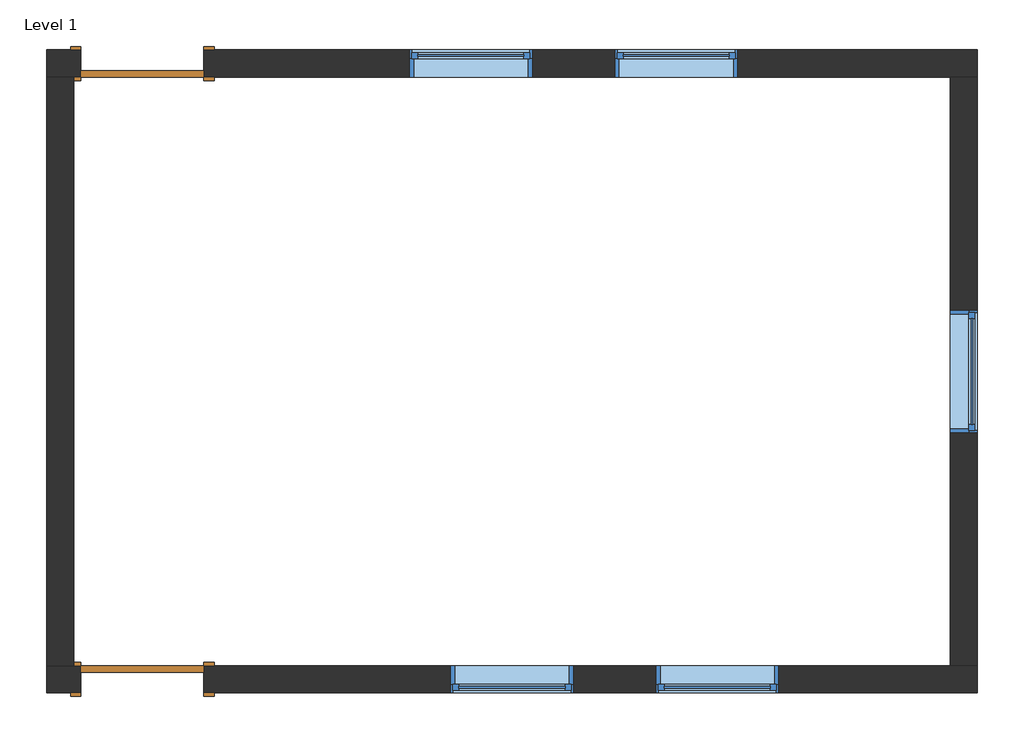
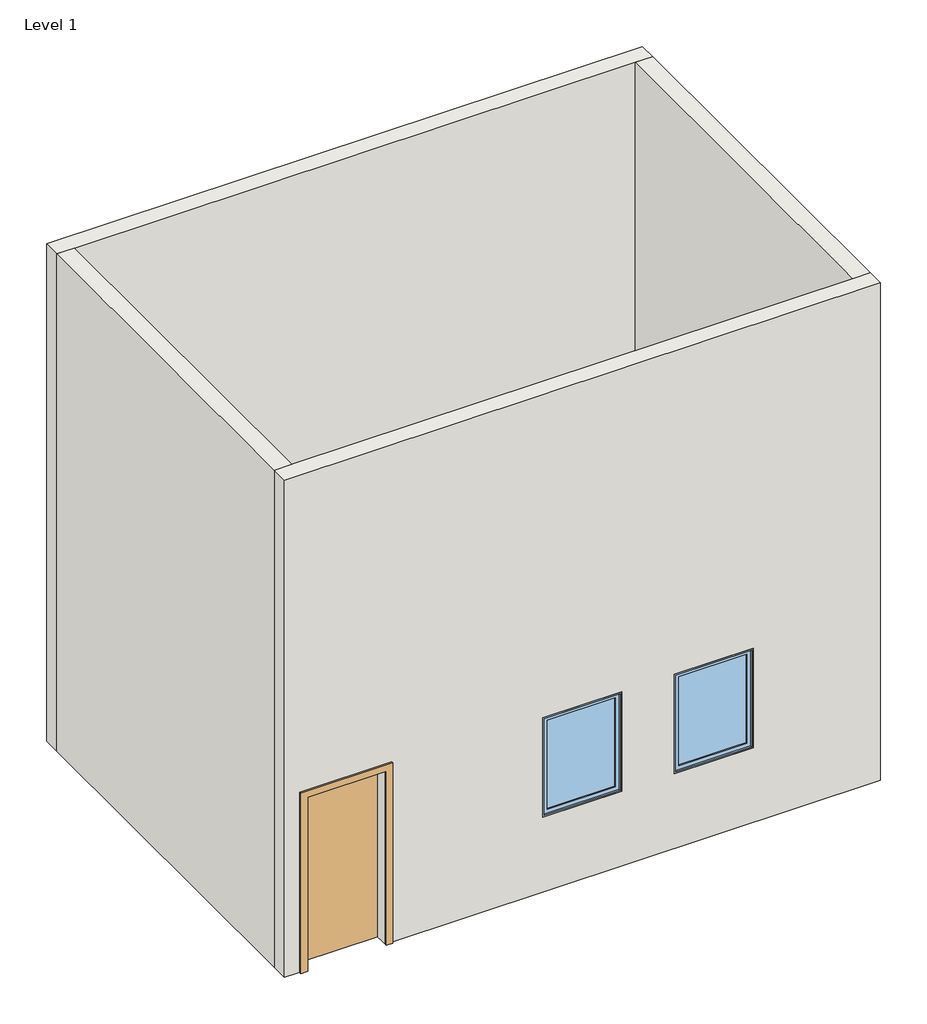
# One storey: 5 windows, 4 walls, 2 doors.
"""IFC4 building model written with IfcOpenShell, lengths in millimetres."""

import ifcopenshell
import ifcopenshell.guid

model = None  # the IFC model being written
_history = None  # IfcOwnerHistory: only IFC2X3 demands one
_inside = {}  # id of a spatial element -> (the spatial element, [elements in it])
_under = {}  # id of a project, library or spatial element -> (it, [spatial elements below it])
_declared = {}  # id of a project -> (the project, [libraries it declares])
_typed = {}  # id of a type object -> (the type object, [elements of that type])
_made_of = {}  # id of a material, layer set ... -> (it, [elements and type objects made of it])


def new_model(schema):
    """Start an empty IFC model of exactly this schema.

    Asked for "IFC4X3", IfcOpenShell would pick the latest addendum, in which some entities
    have other attributes; the version numbers below select the first issue.
    IFC2X3 requires an IfcOwnerHistory on every rooted entity: one is made here for all.
    """
    global model, _history
    if schema == "IFC4X3":
        model = ifcopenshell.file(schema_version=(4, 3, 0, 0))
    else:
        model = ifcopenshell.file(schema=schema)
    _inside.clear()
    _under.clear()
    _declared.clear()
    _typed.clear()
    _made_of.clear()
    _history = None
    if model.schema == "IFC2X3":
        org = make("IfcOrganization", Name="unknown")
        user = make(
            "IfcPersonAndOrganization",
            ThePerson=make("IfcPerson", FamilyName="unknown"),
            TheOrganization=org,
        )
        app = make(
            "IfcApplication",
            ApplicationDeveloper=org,
            Version="unknown",
            ApplicationFullName="unknown",
            ApplicationIdentifier="unknown",
        )
        _history = make(
            "IfcOwnerHistory",
            OwningUser=user,
            OwningApplication=app,
            ChangeAction="ADDED",
            CreationDate=0,
        )
    return model


def make(cls, **values):
    """One entity of the class cls with the attributes given. An attribute that is None is left unset."""
    return model.create_entity(
        cls, **{name: value for name, value in values.items() if value is not None}
    )


def rooted(cls, **values):
    """An entity with a GlobalId (a new one), such as an element, a storey or a relation."""
    return make(cls, GlobalId=ifcopenshell.guid.new(), OwnerHistory=_history, **values)


def si_unit(unit_type, name, prefix=None):
    """IfcSIUnit, for example si_unit("LENGTHUNIT", "METRE", prefix="MILLI")."""
    return make("IfcSIUnit", UnitType=unit_type, Prefix=prefix, Name=name)


def assignment(units):
    """IfcUnitAssignment: the units of a project."""
    return None if units is None else make("IfcUnitAssignment", Units=units)


def point(xyz):
    """IfcCartesianPoint."""
    return None if xyz is None else make("IfcCartesianPoint", Coordinates=xyz)


def direction(xyz):
    """IfcDirection."""
    return None if xyz is None else make("IfcDirection", DirectionRatios=xyz)


def frame(location, z_axis=None, x_axis=None):
    """IfcAxis2Placement3D, a coordinate frame: its origin and axes. An axis left out is left unset."""
    return make(
        "IfcAxis2Placement3D",
        Location=point(location),
        Axis=direction(z_axis),
        RefDirection=direction(x_axis),
    )


def origin():
    """The frame at (0, 0, 0) with its axes left unset."""
    return frame((0.0, 0.0, 0.0))


def origin_with_axes():
    """The frame at (0, 0, 0) with the z axis (0, 0, 1) and the x axis (1, 0, 0) written out."""
    return frame((0.0, 0.0, 0.0), z_axis=(0.0, 0.0, 1.0), x_axis=(1.0, 0.0, 0.0))


def place(relative_to, where):
    """IfcLocalPlacement: puts the frame where relative to a parent placement (None: the world)."""
    return make(
        "IfcLocalPlacement", PlacementRelTo=relative_to, RelativePlacement=where
    )


def context(
    kind, dimensions, precision=None, world=None, true_north=None, identifier=None
):
    """IfcGeometricRepresentationContext, for example the 3D "Model" context."""
    return make(
        "IfcGeometricRepresentationContext",
        ContextIdentifier=identifier,
        ContextType=kind,
        CoordinateSpaceDimension=dimensions,
        Precision=precision,
        WorldCoordinateSystem=world,
        TrueNorth=true_north,
    )


def project(units=None, contexts=None):
    """IfcProject with its units and contexts."""
    return rooted(
        "IfcProject",
        Name="project",
        RepresentationContexts=contexts,
        UnitsInContext=assignment(units),
    )


def spatial(cls, under=None, at=None, **own):
    """A site, building, storey or space (cls), placed at a placement, below another one or the project."""
    s = rooted(cls, ObjectPlacement=at, **own)
    if under is not None:
        _under.setdefault(under.id(), (under, []))[1].append(s)
    return s


def polyline(points):
    """IfcPolyline through the points."""
    return make("IfcPolyline", Points=[point(p) for p in points])


def outline(outer, holes=None, kind="AREA"):
    """IfcArbitraryClosedProfileDef: a profile drawn as a closed curve; with holes, ...WithVoids."""
    if holes is None:
        return make("IfcArbitraryClosedProfileDef", ProfileType=kind, OuterCurve=outer)
    return make(
        "IfcArbitraryProfileDefWithVoids",
        ProfileType=kind,
        OuterCurve=outer,
        InnerCurves=holes,
    )


def extrude(swept, where, along, depth):
    """IfcExtrudedAreaSolid: the profile swept, set in the frame where, extruded along a direction by depth."""
    return make(
        "IfcExtrudedAreaSolid",
        SweptArea=swept,
        Position=where,
        ExtrudedDirection=direction(along),
        Depth=depth,
    )


def faces_of(points, faces, orient=None, outer=None):
    """IfcFace entities. A face is a list of loops; a loop is a list of indices into points, from 0.

    orient and outer hold one flag for each loop. By default every Orientation is true, the
    first loop of a face is its IfcFaceOuterBound and the others are IfcFaceBound.
    """
    made = []
    for i, loops in enumerate(faces):
        bounds = []
        for j, loop in enumerate(loops):
            is_outer = j == 0 if outer is None else outer[i][j]
            bounds.append(
                make(
                    "IfcFaceOuterBound" if is_outer else "IfcFaceBound",
                    Bound=make("IfcPolyLoop", Polygon=[points[k] for k in loop]),
                    Orientation=True if orient is None else orient[i][j],
                )
            )
        made.append(make("IfcFace", Bounds=bounds))
    return made


def faceted_brep(points, faces, orient=None, outer=None, voids=None):
    """IfcFacetedBrep: a solid bounded by flat faces; with voids (closed shells), ...WithVoids."""
    shared = [point(p) for p in points]
    hull = make("IfcClosedShell", CfsFaces=faces_of(shared, faces, orient, outer))
    if voids is None:
        return make("IfcFacetedBrep", Outer=hull)
    return make(
        "IfcFacetedBrepWithVoids",
        Outer=hull,
        Voids=[
            make(cls, CfsFaces=faces_of(shared, fs, o, b)) for cls, fs, o, b in voids
        ],
    )


def shape(context_of_items, identifier, shape_type, items):
    """IfcShapeRepresentation: the items that make up one representation, for example the "Body"."""
    return make(
        "IfcShapeRepresentation",
        ContextOfItems=context_of_items,
        RepresentationIdentifier=identifier,
        RepresentationType=shape_type,
        Items=items,
    )


def source(mapping_origin, context_of_items, identifier, shape_type, items):
    """IfcRepresentationMap: a shape defined once, which mapped items show again and again."""
    return make(
        "IfcRepresentationMap",
        MappingOrigin=mapping_origin,
        MappedRepresentation=shape(context_of_items, identifier, shape_type, items),
    )


def transform(
    local_origin,
    x_axis=None,
    y_axis=None,
    z_axis=None,
    scale=None,
    scale2=None,
    scale3=None,
    uniform=True,
):
    """IfcCartesianTransformationOperator3D, or its non-uniform kind. x_axis, y_axis, z_axis: its Axis1, 2, 3."""
    if uniform:
        return make(
            "IfcCartesianTransformationOperator3D",
            Axis1=direction(x_axis),
            Axis2=direction(y_axis),
            LocalOrigin=point(local_origin),
            Scale=scale,
            Axis3=direction(z_axis),
        )
    return make(
        "IfcCartesianTransformationOperator3DnonUniform",
        Axis1=direction(x_axis),
        Axis2=direction(y_axis),
        LocalOrigin=point(local_origin),
        Scale=scale,
        Axis3=direction(z_axis),
        Scale2=scale2,
        Scale3=scale3,
    )


def mapped(mapping_source, mapping_target):
    """IfcMappedItem: shows the shape of a source again, moved by a transform."""
    return make(
        "IfcMappedItem", MappingSource=mapping_source, MappingTarget=mapping_target
    )


def made_of(thing, what):
    """Note that an element or type object is made of a material, layer set ...; save() writes the relation."""
    if what is not None:
        _made_of.setdefault(what.id(), (what, []))[1].append(thing)
    return thing


def element(
    cls,
    number,
    at=None,
    inside=None,
    cuts=None,
    type_object=None,
    material=None,
    context=None,
    identifier="Body",
    shape_type=None,
    held_by="IfcProductDefinitionShape",
    body=None,
    shapes=None,
    **own,
):
    """One element of the class cls, such as IfcWall. Its Tag is "e" and its number.

    at: its placement. inside: the storey or other place that contains it. cuts: it is an
    opening in that element (IfcRelVoidsElement). A single representation is given by context,
    identifier, shape_type and body (its items); several are given by shapes. held_by: the class
    of the entity that holds the representations. save() writes the other relations.
    """
    e = rooted(cls, Tag="e%d" % number, ObjectPlacement=at, **own)
    if body is not None:
        shapes = [shape(context, identifier, shape_type, body)]
    if shapes is not None:
        e.Representation = make(held_by, Representations=shapes)
    if inside is not None:
        _inside.setdefault(inside.id(), (inside, []))[1].append(e)
    if cuts is not None:
        rooted(
            "IfcRelVoidsElement", RelatingBuildingElement=cuts, RelatedOpeningElement=e
        )
    if type_object is not None:
        _typed.setdefault(type_object.id(), (type_object, []))[1].append(e)
    return made_of(e, material)


def aggregate(whole, parts):
    """IfcRelAggregates: a whole, such as a stair, and the parts it consists of."""
    return rooted("IfcRelAggregates", RelatingObject=whole, RelatedObjects=parts)


def save(model, path):
    """Write the relations noted so far, then the file.

    IfcRelAggregates (storeys below a building ...), IfcRelContainedInSpatialStructure (elements
    in a storey), IfcRelDefinesByType, IfcRelAssociatesMaterial and IfcRelDeclares: one each for
    every whole, place, type object, material and project.
    """
    for whole, parts in _under.values():
        aggregate(whole, parts)
    for where, things in _inside.values():
        rooted(
            "IfcRelContainedInSpatialStructure",
            RelatedElements=things,
            RelatingStructure=where,
        )
    for kind, things in _typed.values():
        rooted("IfcRelDefinesByType", RelatedObjects=things, RelatingType=kind)
    for what, things in _made_of.values():
        rooted("IfcRelAssociatesMaterial", RelatedObjects=things, RelatingMaterial=what)
    for by, libraries in _declared.values():
        rooted("IfcRelDeclares", RelatingContext=by, RelatedDefinitions=libraries)
    model.write(path)


def door_54dd4da4(model_context):
    return source(origin(), model_context, "Body", "SweptSolid", [
        extrude(outline(polyline([(2209.8, -533.4), (0.0, -533.4), (0.0, -457.2), (2133.6, -457.2), (2133.6, 457.2), (0.0, 457.2), (0.0, 533.4), (2209.8, 533.4), (2209.8, -533.4)])), frame((0.0, 101.6, 0.0), z_axis=(0.0, 1.0, 0.0), x_axis=(0.0, 0.0, 1.0)), (0.0, 0.0, 1.0), 25.4),
        extrude(outline(polyline([(2209.8, 533.4), (2209.8, -533.4), (0.0, -533.4), (0.0, -457.2), (2133.6, -457.2), (2133.6, 457.2), (0.0, 457.2), (0.0, 533.4), (2209.8, 533.4)])), frame((0.0, -127.0, 0.0), z_axis=(0.0, 1.0, 0.0), x_axis=(0.0, 0.0, 1.0)), (0.0, 0.0, 1.0), 25.4),
        extrude(outline(polyline([(457.2, 50.8), (-457.2, 50.8), (-457.2, 101.6), (457.2, 101.6), (457.2, 50.8)])), origin_with_axes(), (0.0, 0.0, 1.0), 2133.6),
    ])


def door_719f80de(model_context):
    return source(origin(), model_context, "Body", "SweptSolid", [
        extrude(outline(polyline([(2209.8, -533.4), (0.0, -533.4), (0.0, -457.2), (2133.6, -457.2), (2133.6, 457.2), (0.0, 457.2), (0.0, 533.4), (2209.8, 533.4), (2209.8, -533.4)])), frame((0.0, -127.0, 0.0), z_axis=(0.0, 1.0, 0.0), x_axis=(0.0, 0.0, 1.0)), (0.0, 0.0, 1.0), 25.4),
        extrude(outline(polyline([(2209.8, 533.4), (2209.8, -533.4), (0.0, -533.4), (0.0, -457.2), (2133.6, -457.2), (2133.6, 457.2), (0.0, 457.2), (0.0, 533.4), (2209.8, 533.4)])), frame((0.0, 101.6, 0.0), z_axis=(0.0, 1.0, 0.0), x_axis=(0.0, 0.0, 1.0)), (0.0, 0.0, 1.0), 25.4),
        extrude(outline(polyline([(457.2, -50.8), (457.2, -101.6), (-457.2, -101.6), (-457.2, -50.8), (457.2, -50.8)])), origin_with_axes(), (0.0, 0.0, 1.0), 2133.6),
    ])


def window_e2841890(model_context):
    return source(origin(), model_context, "Body", "SweptSolid", [
        extrude(outline(polyline([(355.6, 53.975), (-431.8, 53.975), (-431.8, 66.675), (355.6, 66.675), (355.6, 53.975)])), frame((0.0, 0.0, 977.9), z_axis=(0.0, 0.0, 1.0), x_axis=(1.0, 0.0, 0.0)), (0.0, 0.0, 1.0), 1092.2),
        extrude(outline(polyline([(2114.55, -476.25), (933.45, -476.25), (933.45, 400.05), (2114.55, 400.05), (2114.55, -476.25)]), holes=[polyline([(2070.1, -431.8), (2070.1, 355.6), (977.9, 355.6), (977.9, -431.8), (2070.1, -431.8)])]), frame((0.0, 38.1, 0.0), z_axis=(0.0, 1.0, 0.0), x_axis=(0.0, 0.0, 1.0)), (0.0, 0.0, 1.0), 44.45),
        extrude(outline(polyline([(2133.6, -495.3), (914.4, -495.3), (914.4, 419.1), (2133.6, 419.1), (2133.6, -495.3)]), holes=[polyline([(2101.85, -463.55), (2101.85, 387.35), (946.15, 387.35), (946.15, -463.55), (2101.85, -463.55)])]), frame((0.0, -101.6, 0.0), z_axis=(0.0, 1.0, 0.0), x_axis=(0.0, 0.0, 1.0)), (0.0, 0.0, 1.0), 139.7),
        extrude(outline(polyline([(2133.6, 419.1), (2133.6, -495.3), (914.4, -495.3), (914.4, 419.1), (2133.6, 419.1)]), holes=[polyline([(2114.55, 400.05), (933.45, 400.05), (933.45, -476.25), (2114.55, -476.25), (2114.55, 400.05)])]), frame((0.0, 38.1, 0.0), z_axis=(0.0, 1.0, 0.0), x_axis=(0.0, 0.0, 1.0)), (0.0, 0.0, 1.0), 63.5),
    ])


model = new_model("IFC4")

# Units and contexts
model_context = context("Model", 3, world=origin())
ifc_project = project(units=[si_unit("LENGTHUNIT", "METRE", prefix="MILLI")], contexts=[model_context])

# Site, building, storey
site = spatial("IfcSite", under=ifc_project)
building = spatial("IfcBuilding", under=site)
storey = spatial("IfcBuildingStorey", under=building, Name="Level 1", Elevation=0.0)

# Doors
placement = place(None, origin())
door_shape = door_54dd4da4(model_context)
element("IfcDoor", 1, ObjectType="Single-Flush : 36\" x 84\"", at=placement, inside=storey, context=model_context, shape_type="MappedRepresentation", body=[
    mapped(door_shape, transform((135.110647, 2029.2153542, 0.0), x_axis=(-1.0, 0.0, 0.0), y_axis=(0.0, -1.0, 0.0), z_axis=(0.0, 0.0, 1.0))),
])
door_2_shape = door_719f80de(model_context)
element("IfcDoor", 2, ObjectType="Single-Flush : 36\" x 84\"", at=placement, inside=storey, context=model_context, shape_type="MappedRepresentation", body=[
    mapped(door_2_shape, transform((135.110647, -2542.7846458, 0.0), x_axis=(-0.9999999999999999, 0.0, 0.0), y_axis=(0.0, -0.9999999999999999, 0.0), z_axis=(0.0, 0.0, 1.0))),
])

# Walls
element("IfcWall", 3, ObjectType="Generic - 8\"", at=placement, inside=storey, context=model_context, shape_type="Brep", body=[
    faceted_brep([(-576.089353, 1927.6153542, 0.0), (-372.889353, 1927.6153542, 0.0), (-322.089353, 1927.6153542, 0.0), (-322.089353, 1927.6153542, 2133.6), (592.310647, 1927.6153542, 2133.6), (592.310647, 1927.6153542, 0.0), (6129.510647, 1927.6153542, 0.0), (6332.710647, 1927.6153542, 0.0), (6332.710647, 1927.6153542, 6096.0), (6129.510647, 1927.6153542, 6096.0), (-372.889353, 1927.6153542, 6096.0), (-576.089353, 1927.6153542, 6096.0), (3030.710647, 1927.6153542, 2133.6), (3030.710647, 1927.6153542, 914.4), (2116.310647, 1927.6153542, 914.4), (2116.310647, 1927.6153542, 2133.6), (4554.710647, 1927.6153542, 2133.6), (4554.710647, 1927.6153542, 914.4), (3640.310647, 1927.6153542, 914.4), (3640.310647, 1927.6153542, 2133.6), (-322.089353, 2130.8153542, 2133.6), (-322.089353, 2130.8153542, 0.0), (-576.089353, 2130.8153542, 0.0), (-576.089353, 2130.8153542, 6096.0), (6332.710647, 2130.8153542, 6096.0), (6332.710647, 2130.8153542, 0.0), (592.310647, 2130.8153542, 0.0), (592.310647, 2130.8153542, 2133.6), (3030.710647, 2130.8153542, 2133.6), (2116.310647, 2130.8153542, 2133.6), (2116.310647, 2130.8153542, 914.4), (3030.710647, 2130.8153542, 914.4), (4554.710647, 2130.8153542, 2133.6), (3640.310647, 2130.8153542, 2133.6), (3640.310647, 2130.8153542, 914.4), (4554.710647, 2130.8153542, 914.4)], [[[0, 1, 2, 3, 4, 5, 6, 7, 8, 9, 10, 11], [12, 13, 14, 15], [16, 17, 18, 19]], [[20, 21, 22, 23, 24, 25, 26, 27], [28, 29, 30, 31], [32, 33, 34, 35]], [[22, 21, 2, 1, 0]], [[26, 25, 7, 6, 5]], [[11, 10, 9, 8, 24, 23]], [[8, 7, 25, 24]], [[0, 11, 23, 22]], [[3, 2, 21, 20]], [[4, 3, 20, 27]], [[5, 4, 27, 26]], [[13, 12, 28, 31]], [[14, 13, 31, 30]], [[15, 14, 30, 29]], [[12, 15, 29, 28]], [[17, 16, 32, 35]], [[18, 17, 35, 34]], [[19, 18, 34, 33]], [[16, 19, 33, 32]]]),
])
element("IfcWall", 4, ObjectType="Generic - 8\"", at=placement, inside=storey, context=model_context, shape_type="SweptSolid", body=[
    extrude(outline(polyline([(1927.6153542, 0.0), (-2441.1846458, 0.0), (-2441.1846458, 6096.0), (1927.6153542, 6096.0), (1927.6153542, 0.0)]), holes=[polyline([(-713.9846458, 2133.6), (-713.9846458, 914.4), (200.4153542, 914.4), (200.4153542, 2133.6), (-713.9846458, 2133.6)])]), frame((6129.510647, 0.0, 0.0), z_axis=(1.0, 0.0, 0.0), x_axis=(0.0, 1.0, 0.0)), (0.0, 0.0, 1.0), 203.2),
])
element("IfcWall", 5, ObjectType="Generic - 8\"", at=placement, inside=storey, context=model_context, shape_type="Brep", body=[
    faceted_brep([(-322.089353, -2441.1846458, 2133.6), (-322.089353, -2441.1846458, 0.0), (-372.889353, -2441.1846458, 0.0), (-576.089353, -2441.1846458, 0.0), (-576.089353, -2441.1846458, 6096.0), (-372.889353, -2441.1846458, 6096.0), (6129.510647, -2441.1846458, 6096.0), (6332.710647, -2441.1846458, 6096.0), (6332.710647, -2441.1846458, 0.0), (6129.510647, -2441.1846458, 0.0), (592.310647, -2441.1846458, 0.0), (592.310647, -2441.1846458, 2133.6), (3945.110647, -2441.1846458, 2133.6), (3945.110647, -2441.1846458, 914.4), (4859.510647, -2441.1846458, 914.4), (4859.510647, -2441.1846458, 2133.6), (2421.110647, -2441.1846458, 2133.6), (2421.110647, -2441.1846458, 914.4), (3335.510647, -2441.1846458, 914.4), (3335.510647, -2441.1846458, 2133.6), (-576.089353, -2644.3846458, 0.0), (-322.089353, -2644.3846458, 0.0), (-322.089353, -2644.3846458, 2133.6), (592.310647, -2644.3846458, 2133.6), (592.310647, -2644.3846458, 0.0), (6332.710647, -2644.3846458, 0.0), (6332.710647, -2644.3846458, 6096.0), (-576.089353, -2644.3846458, 6096.0), (3945.110647, -2644.3846458, 2133.6), (4859.510647, -2644.3846458, 2133.6), (4859.510647, -2644.3846458, 914.4), (3945.110647, -2644.3846458, 914.4), (2421.110647, -2644.3846458, 2133.6), (3335.510647, -2644.3846458, 2133.6), (3335.510647, -2644.3846458, 914.4), (2421.110647, -2644.3846458, 914.4)], [[[0, 1, 2, 3, 4, 5, 6, 7, 8, 9, 10, 11], [12, 13, 14, 15], [16, 17, 18, 19]], [[20, 21, 22, 23, 24, 25, 26, 27], [28, 29, 30, 31], [32, 33, 34, 35]], [[3, 2, 1, 21, 20]], [[10, 9, 8, 25, 24]], [[7, 6, 5, 4, 27, 26]], [[4, 3, 20, 27]], [[8, 7, 26, 25]], [[22, 21, 1, 0]], [[23, 22, 0, 11]], [[24, 23, 11, 10]], [[13, 12, 28, 31]], [[14, 13, 31, 30]], [[15, 14, 30, 29]], [[12, 15, 29, 28]], [[17, 16, 32, 35]], [[18, 17, 35, 34]], [[19, 18, 34, 33]], [[16, 19, 33, 32]]]),
])
element("IfcWall", 6, ObjectType="Generic - 8\"", at=placement, inside=storey, context=model_context, shape_type="SweptSolid", body=[
    extrude(outline(polyline([(-372.889353, 1927.6153542), (-372.889353, -2441.1846458), (-576.089353, -2441.1846458), (-576.089353, 1927.6153542), (-372.889353, 1927.6153542)])), origin_with_axes(), (0.0, 0.0, 1.0), 6096.0),
])

# Windows
window_shape = window_e2841890(model_context)
element("IfcWindow", 7, ObjectType="Fixed : 36\" x 48\"", at=placement, inside=storey, context=model_context, shape_type="MappedRepresentation", body=[
    mapped(window_shape, transform((2611.610647, 2029.2153542, 0.0), x_axis=(1.0, 0.0, 0.0), y_axis=(0.0, 1.0, 0.0), z_axis=(0.0, 0.0, 1.0))),
])
element("IfcWindow", 8, ObjectType="Fixed : 36\" x 48\"", at=placement, inside=storey, context=model_context, shape_type="MappedRepresentation", body=[
    mapped(window_shape, transform((4135.610647, 2029.2153542, 0.0), x_axis=(1.0, 0.0, 0.0), y_axis=(0.0, 1.0, 0.0), z_axis=(0.0, 0.0, 1.0))),
])
element("IfcWindow", 9, ObjectType="Fixed : 36\" x 48\"", at=placement, inside=storey, context=model_context, shape_type="MappedRepresentation", body=[
    mapped(window_shape, transform((6231.110647, -294.8846458, 0.0), x_axis=(0.0, -1.0, 0.0), y_axis=(1.0, 0.0, 0.0), z_axis=(0.0, 0.0, 1.0))),
])
element("IfcWindow", 10, ObjectType="Fixed : 36\" x 48\"", at=placement, inside=storey, context=model_context, shape_type="MappedRepresentation", body=[
    mapped(window_shape, transform((4364.210647, -2542.7846458, 0.0), x_axis=(-0.9999999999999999, 0.0, 0.0), y_axis=(0.0, -0.9999999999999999, 0.0), z_axis=(0.0, 0.0, 1.0))),
])
element("IfcWindow", 11, ObjectType="Fixed : 36\" x 48\"", at=placement, inside=storey, context=model_context, shape_type="MappedRepresentation", body=[
    mapped(window_shape, transform((2840.210647, -2542.7846458, 0.0), x_axis=(-0.9999999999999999, 0.0, 0.0), y_axis=(0.0, -0.9999999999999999, 0.0), z_axis=(0.0, 0.0, 1.0))),
])

save(model, "model.ifc")
